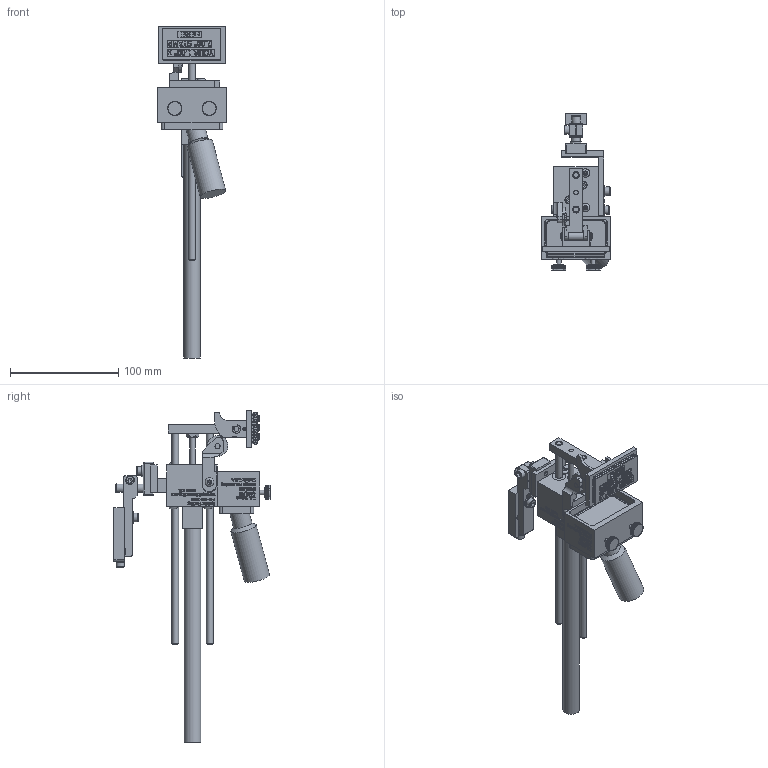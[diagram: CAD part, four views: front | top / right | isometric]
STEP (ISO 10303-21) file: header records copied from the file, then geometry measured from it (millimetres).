
FILE_DESCRIPTION((''),'2;1');
FILE_NAME('C:\Documents and Settings\Ron\My Documents\Inventor\Sprinter Drawing\Machines in Inventor\Model 816\Type\Ext Str\E4\Brkt\90\Model 816 ES 4 90 deg w brkt.stp','2009-01-27T10:17:36',('Ron'),(''),'Autodesk Inventor 2008','Autodesk Inventor 2008','');
FILE_SCHEMA(('AUTOMOTIVE_DESIGN { 1 0 10303 214 1 1 1 1 }'));
Length unit declared in the file: inch
Products named in the file (1): Model 816  ES 4 90 deg w brkt
Bounding box: 63.5 x 144.17 x 306.51 mm (x, y, z)
Volume: 294611.9 mm3; surface area: 98940 mm2
Topology: 379 solids, 379 shells, 6740 faces, 16808 edges, 10432 vertices
Faces by surface type: plane 4662, bspline 1458, cylinder 535, cone 66, torus 15, sphere 4
Full cylindrical faces by diameter (mm): 2.54 x2, 2.845 x1, 3.175 x1, 4.064 x2, 4.166 x3, 4.699 x3, 4.75 x2, 4.826 x9, 5.08 x1, 5.156 x3, 6.223 x2, 6.325 x2, 6.35 x2, 6.604 x1, 6.68 x1, 6.858 x2, 7.62 x2, 7.925 x11, 7.938 x1, 9.017 x1, 9.525 x2, 10.312 x4, 10.922 x1, 15.494 x1, 17.526 x1, 19.05 x1, 24.13 x1
Entity records: 210735 total; most frequent: CARTESIAN_POINT 58185, ORIENTED_EDGE 32992, DIRECTION 25551, EDGE_CURVE 16496, VECTOR 12251, LINE 12251, VERTEX_POINT 10327, EDGE_LOOP 7369
